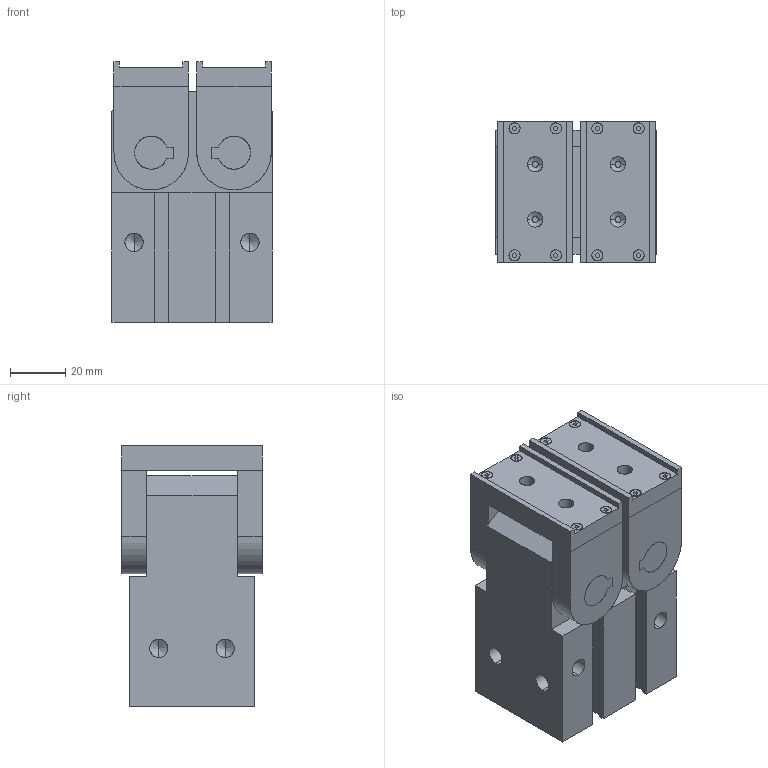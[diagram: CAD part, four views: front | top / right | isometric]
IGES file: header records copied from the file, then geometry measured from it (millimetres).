
Start section: SolidWorks IGES file using analytic representation for surfaces
Global section: file name: C:\Documents and Settings\1EDPI\Mes documents\Kevin 17.01.13\ghk\ghk32\GHK 35 close.IGS; native system: SolidWorks 2010; preprocessor: SolidWorks 2010; author: 1EDPI; date: 130304.105007; units: millimetre
Bounding box: 58 x 51 x 94.5 mm (x, y, z)
Surface area: 51204.3 mm2 (no closed solid volume)
Topology: 0 solids, 0 shells, 277 faces, 3348 edges, 3328 vertices
Faces by surface type: bspline 181, revolution 96
